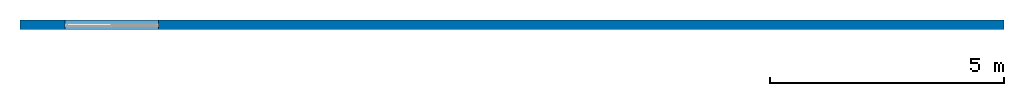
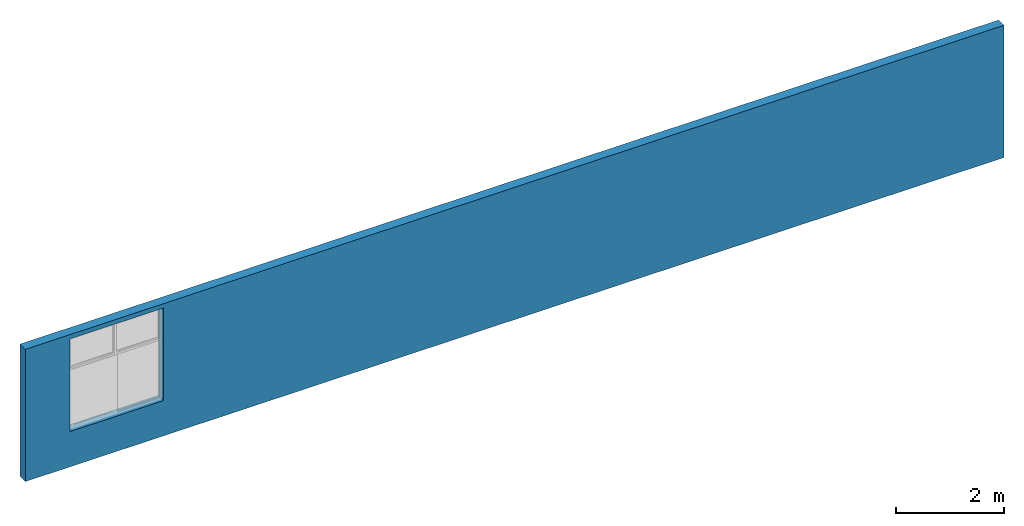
# One storey, part 1 of 2: 1 wall, 1 opening.
"""IFC2X3 building model written with IfcOpenShell, lengths in metres."""

from ifc_helpers import new_model, entity, si_unit, converted_unit, derived_unit, direction, frame, frame_2d, origin, place, context, subcontext, project, spatial, rectangle, extrude, material, layer, layer_set, layer_usage, type_object, element, save


model = new_model("IFC2X3")

# Units and contexts
model_context = context("Model", 3, precision=1e-05, world=origin(), true_north=direction((6.123031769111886e-17, 1.0)))
body_context = subcontext(model_context, "Body", "Model", "MODEL_VIEW")
ifc_project = project(units=[si_unit("LENGTHUNIT", "METRE"), si_unit("AREAUNIT", "SQUARE_METRE"), si_unit("VOLUMEUNIT", "CUBIC_METRE"), converted_unit("PLANEANGLEUNIT", "DEGREE", entity("IfcPlaneAngleMeasure", 0.017453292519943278), si_unit("PLANEANGLEUNIT", "RADIAN"), dimensions=[0, 0, 0, 0, 0, 0, 0]), si_unit("MASSUNIT", "GRAM", prefix="KILO"), derived_unit("MASSDENSITYUNIT", [(si_unit("MASSUNIT", "GRAM", prefix="KILO"), 1), (si_unit("LENGTHUNIT", "METRE"), -3)]), derived_unit("IONCONCENTRATIONUNIT", [(si_unit("MASSUNIT", "GRAM", prefix="KILO"), 1), (si_unit("LENGTHUNIT", "METRE"), -3)]), derived_unit("MOMENTOFINERTIAUNIT", [(si_unit("LENGTHUNIT", "METRE"), 4)]), si_unit("TIMEUNIT", "SECOND"), si_unit("FREQUENCYUNIT", "HERTZ"), si_unit("THERMODYNAMICTEMPERATUREUNIT", "DEGREE_CELSIUS"), derived_unit("THERMALTRANSMITTANCEUNIT", [(si_unit("MASSUNIT", "GRAM", prefix="KILO"), 1), (si_unit("THERMODYNAMICTEMPERATUREUNIT", "KELVIN"), -1), (si_unit("TIMEUNIT", "SECOND"), -3)]), derived_unit("THERMALCONDUCTANCEUNIT", [(si_unit("MASSUNIT", "GRAM", prefix="KILO"), 1), (si_unit("THERMODYNAMICTEMPERATUREUNIT", "KELVIN"), -1), (si_unit("TIMEUNIT", "SECOND"), -3), (si_unit("LENGTHUNIT", "METRE"), 1)]), derived_unit("VOLUMETRICFLOWRATEUNIT", [(si_unit("LENGTHUNIT", "METRE", prefix="DECI"), 3), (si_unit("TIMEUNIT", "SECOND"), -1)]), derived_unit("MASSFLOWRATEUNIT", [(si_unit("MASSUNIT", "GRAM", prefix="KILO"), 1), (si_unit("TIMEUNIT", "SECOND"), -1)]), derived_unit("ROTATIONALFREQUENCYUNIT", [(si_unit("TIMEUNIT", "SECOND"), -1)]), si_unit("ELECTRICCURRENTUNIT", "AMPERE"), si_unit("ELECTRICVOLTAGEUNIT", "VOLT"), si_unit("POWERUNIT", "WATT"), si_unit("FORCEUNIT", "NEWTON", prefix="KILO"), si_unit("ILLUMINANCEUNIT", "LUX"), si_unit("LUMINOUSFLUXUNIT", "LUMEN"), si_unit("LUMINOUSINTENSITYUNIT", "CANDELA"), si_unit("ENERGYUNIT", "JOULE"), derived_unit("USERDEFINED", [(si_unit("MASSUNIT", "GRAM", prefix="KILO"), -1), (si_unit("LENGTHUNIT", "METRE"), -2), (si_unit("TIMEUNIT", "SECOND"), 3), (si_unit("LUMINOUSFLUXUNIT", "LUMEN"), 1)]), derived_unit("USERDEFINED", [(si_unit("MASSUNIT", "GRAM", prefix="KILO"), 1), (si_unit("TIMEUNIT", "SECOND"), -3), (si_unit("LENGTHUNIT", "METRE"), 3), (si_unit("ELECTRICCURRENTUNIT", "AMPERE"), -2)]), derived_unit("SOUNDPOWERUNIT", [(si_unit("MASSUNIT", "GRAM", prefix="KILO"), 1), (si_unit("TIMEUNIT", "SECOND"), -3), (si_unit("LENGTHUNIT", "METRE"), 2)]), derived_unit("SOUNDPRESSUREUNIT", [(si_unit("MASSUNIT", "GRAM", prefix="KILO"), 1), (si_unit("LENGTHUNIT", "METRE"), -1), (si_unit("TIMEUNIT", "SECOND"), -2)]), derived_unit("LINEARVELOCITYUNIT", [(si_unit("LENGTHUNIT", "METRE"), 1), (si_unit("TIMEUNIT", "SECOND"), -1)]), si_unit("PRESSUREUNIT", "PASCAL"), derived_unit("USERDEFINED", [(si_unit("MASSUNIT", "GRAM", prefix="KILO"), 1), (si_unit("LENGTHUNIT", "METRE"), -2), (si_unit("TIMEUNIT", "SECOND"), -2)]), derived_unit("LINEARFORCEUNIT", [(si_unit("MASSUNIT", "GRAM", prefix="KILO"), 1), (si_unit("TIMEUNIT", "SECOND"), -2)]), derived_unit("PLANARFORCEUNIT", [(si_unit("MASSUNIT", "GRAM", prefix="KILO"), 1), (si_unit("LENGTHUNIT", "METRE"), -1), (si_unit("TIMEUNIT", "SECOND"), -2)]), derived_unit("SPECIFICHEATCAPACITYUNIT", [(si_unit("THERMODYNAMICTEMPERATUREUNIT", "KELVIN"), -1), (si_unit("LENGTHUNIT", "METRE"), 2), (si_unit("TIMEUNIT", "SECOND"), -2)]), derived_unit("HEATFLUXDENSITYUNIT", [(si_unit("MASSUNIT", "GRAM", prefix="KILO"), 1), (si_unit("TIMEUNIT", "SECOND"), -3)]), derived_unit("HEATINGVALUEUNIT", [(si_unit("LENGTHUNIT", "METRE"), 2), (si_unit("TIMEUNIT", "SECOND"), -2)]), derived_unit("VAPORPERMEABILITYUNIT", [(si_unit("LENGTHUNIT", "METRE"), -1), (si_unit("TIMEUNIT", "SECOND"), 1)]), derived_unit("DYNAMICVISCOSITYUNIT", [(si_unit("MASSUNIT", "GRAM", prefix="KILO"), 1), (si_unit("TIMEUNIT", "SECOND"), -1), (si_unit("LENGTHUNIT", "METRE"), -1)]), derived_unit("THERMALEXPANSIONCOEFFICIENTUNIT", [(si_unit("THERMODYNAMICTEMPERATUREUNIT", "KELVIN"), -1)]), derived_unit("MODULUSOFELASTICITYUNIT", [(si_unit("MASSUNIT", "GRAM", prefix="KILO"), 1), (si_unit("LENGTHUNIT", "METRE"), -1), (si_unit("TIMEUNIT", "SECOND"), -2)]), derived_unit("ISOTHERMALMOISTURECAPACITYUNIT", [(si_unit("MASSUNIT", "GRAM", prefix="KILO"), -1), (si_unit("LENGTHUNIT", "METRE"), 3)]), derived_unit("MOISTUREDIFFUSIVITYUNIT", [(si_unit("TIMEUNIT", "SECOND"), -1), (si_unit("LENGTHUNIT", "METRE"), 2)]), derived_unit("MASSPERLENGTHUNIT", [(si_unit("MASSUNIT", "GRAM", prefix="KILO"), 1), (si_unit("LENGTHUNIT", "METRE"), -1)]), derived_unit("THERMALRESISTANCEUNIT", [(si_unit("MASSUNIT", "GRAM", prefix="KILO"), -1), (si_unit("TIMEUNIT", "SECOND"), 3), (si_unit("THERMODYNAMICTEMPERATUREUNIT", "KELVIN"), 1)]), derived_unit("ACCELERATIONUNIT", [(si_unit("LENGTHUNIT", "METRE"), 1), (si_unit("TIMEUNIT", "SECOND"), -2)]), derived_unit("ANGULARVELOCITYUNIT", [(si_unit("TIMEUNIT", "SECOND"), -1), (si_unit("PLANEANGLEUNIT", "RADIAN"), 1)]), derived_unit("LINEARSTIFFNESSUNIT", [(si_unit("MASSUNIT", "GRAM", prefix="KILO"), 1), (si_unit("TIMEUNIT", "SECOND"), -2)]), derived_unit("WARPINGCONSTANTUNIT", [(si_unit("LENGTHUNIT", "METRE"), 6)]), derived_unit("LINEARMOMENTUNIT", [(si_unit("MASSUNIT", "GRAM", prefix="KILO"), 1), (si_unit("LENGTHUNIT", "METRE"), 1), (si_unit("TIMEUNIT", "SECOND"), -2)]), derived_unit("TORQUEUNIT", [(si_unit("MASSUNIT", "GRAM", prefix="KILO"), 1), (si_unit("LENGTHUNIT", "METRE"), 2), (si_unit("TIMEUNIT", "SECOND"), -2)])], contexts=[model_context])

# Site, building, storey
site_placement = place(None, origin())
site = spatial("IfcSite", under=ifc_project, at=site_placement, Name="Default", CompositionType="ELEMENT")
building_placement = place(site_placement, origin())
building = spatial("IfcBuilding", under=site, at=building_placement, CompositionType="ELEMENT")
storey_placement = place(building_placement, origin())
storey = spatial("IfcBuildingStorey", under=building, at=storey_placement, Name="Nivel 1", CompositionType="ELEMENT", Elevation=0.0)

# Wall, opening
ifc_material = material(Name="Muro por defecto")
ifc_layer = layer(ifc_material, 0.2)
ifc_layer_set = layer_set([ifc_layer], Name="Basic Wall:Por defecto - 20 cm")
ifc_layer_usage = layer_usage(ifc_layer_set, "AXIS2", "NEGATIVE", 0.1)
wall_type = type_object("IfcWallType", Name="Basic Wall:Por defecto - 20 cm", PredefinedType="STANDARD", material=ifc_layer_set)
wall_placement = place(storey_placement, frame((-9.553280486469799, 0.007588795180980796, 0.0)))
wall = element("IfcWallStandardCase", 1, at=wall_placement, inside=storey, type_object=wall_type, material=ifc_layer_usage, Name="Basic Wall:Por defecto - 20 cm", ObjectType="Basic Wall:Por defecto - 20 cm", context=body_context, shape_type="SweptSolid", body=[
    extrude(rectangle(XDim=21.0, YDim=0.2, at=frame_2d((10.5, 0.0), x_axis=(-1.0, 0.0))), origin(), (0.0, 0.0, 1.0), 2.9999999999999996),
])
opening_placement = place(wall_placement, frame((0.96, -0.10000000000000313, 0.7999999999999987)))
element("IfcOpeningElement", 2, at=opening_placement, cuts=wall, Name="Deceuninck_Ventana_monorriel_fijo-superior_Bella-Sliding:Deceuninck_Ventana_monorriel_fijo-superior_Bella-Sliding:1", ObjectType="Opening", context=body_context, shape_type="SweptSolid", body=[
    extrude(rectangle(XDim=2.0999999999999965, YDim=1.9999999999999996, at=frame_2d((1.0499999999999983, 0.9999999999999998), x_axis=(1.0, 0.0))), frame((0.0, 0.0, 0.0), z_axis=(0.0, 1.0, 0.0), x_axis=(0.0, 0.0, 1.0)), (0.0, 0.0, 1.0), 0.2),
])

save(model, "model.ifc")
